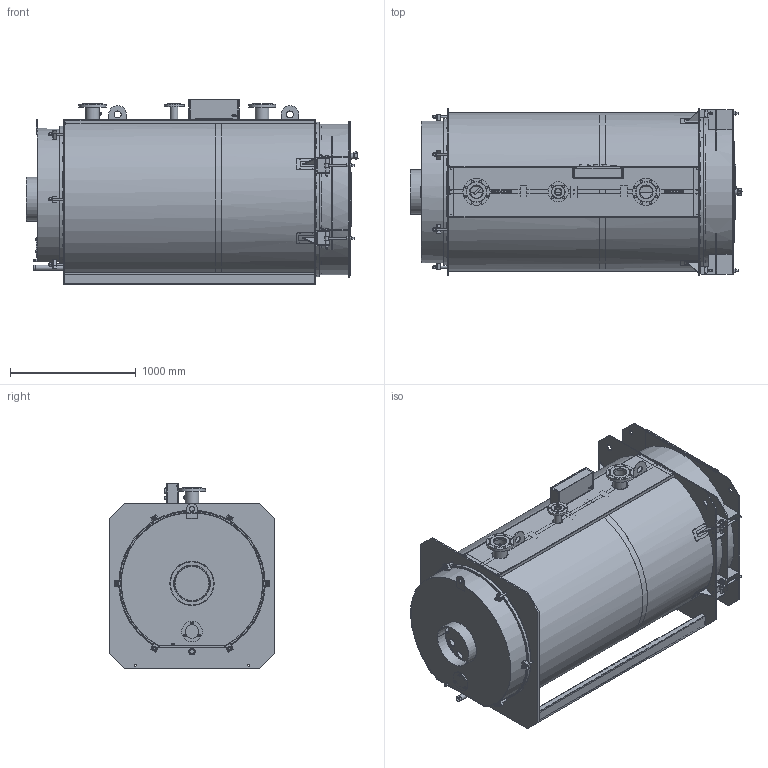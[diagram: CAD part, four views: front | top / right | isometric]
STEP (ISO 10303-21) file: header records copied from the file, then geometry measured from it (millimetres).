
FILE_DESCRIPTION(('STEP AP242'), '1');
FILE_NAME('TITAN Prom 4 (800 êÂò)', '', ('UNSPECIFIED'), ('UNSPECIFIED'), 'ASCON STEP Converter 1.6', 'ASCON Math Kernel', '');
FILE_SCHEMA(('AP242_MANAGED_MODEL_BASED_3D_ENGINEERING_MIM_LF { 1 0 10303 442 1 1 4 }'));
Length unit declared in the file: millimetre
Bounding box: 2640.04 x 1320 x 1478.16 mm (x, y, z)
Volume: 250739538.7 mm3; surface area: 38953826.8 mm2
Topology: 52 solids, 52 shells, 3169 faces, 7763 edges, 4937 vertices
Faces by surface type: plane 1938, cylinder 846, cone 262, bspline 88, torus 20, extrusion 9, sphere 6
Full cylindrical faces by diameter (mm): 2 x4, 2.8 x27, 3 x1, 3.2 x4, 3.5 x8, 3.6 x4, 4 x12, 4.1 x2, 4.5 x12, 4.8 x1, 5 x17, 6 x5, 7 x2, 7.6 x1, 8 x3, 9 x2, 9.25 x4, 9.728 x1, 10 x6, 10.5 x1, 11 x1, 12 x10, 13 x7, 13.835 x10, 14 x4, 14.5 x1, 15 x3, 15.7 x1, 16 x38, 17 x14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
Entity records: 156903 total; most frequent: CARTESIAN_POINT 58259, DIRECTION 14596, ORIENTED_EDGE 14132, EDGE_CURVE 7066, AXIS2_PLACEMENT_3D 5224, VERTEX_POINT 4933, EDGE_LOOP 4619, VECTOR 4148
